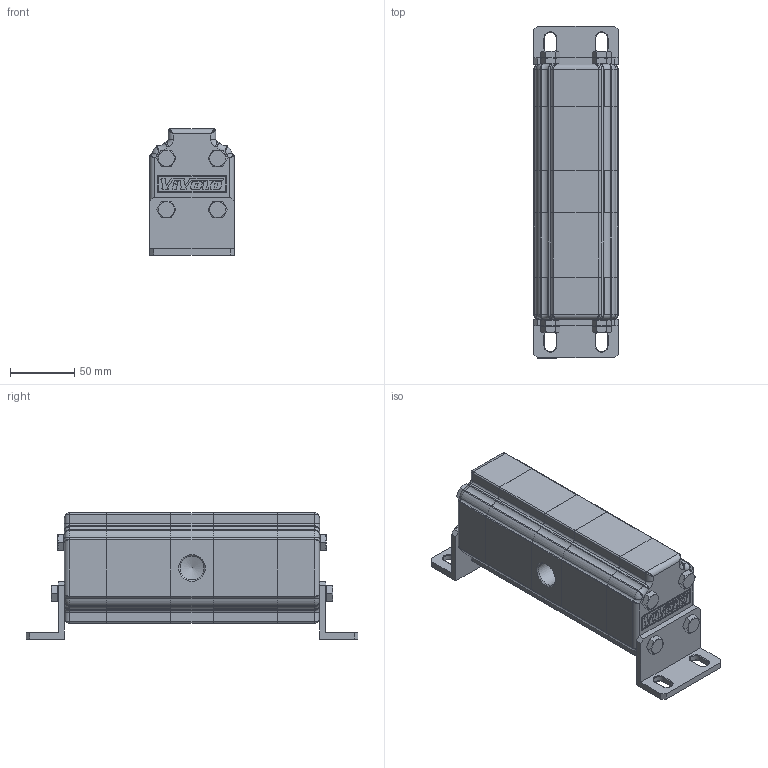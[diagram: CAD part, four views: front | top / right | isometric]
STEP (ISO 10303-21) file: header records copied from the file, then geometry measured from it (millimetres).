
FILE_DESCRIPTION(/* description */ ('Unknown'),/* implementation_level */ '2;1');
FILE_NAME(/* name */ '9RD0223',/* time_stamp */ '2020-04-14T13:03:21+02:00',/* author */ ('Unknown'),/* organization */ ('Unknown'),/* preprocessor_version */ 'ST-DEVELOPER v16.7',/* originating_system */ 'DEX',/* authorisation */ $);
FILE_SCHEMA (('AUTOMOTIVE_DESIGN {1 0 10303 214 3 1 1}'));
Length unit declared in the file: millimetre
Products named in the file (1): RV-1D
Bounding box: 66 x 259 x 98.5 mm (x, y, z)
Volume: 1003391.7 mm3; surface area: 84799.4 mm2
Topology: 1 solids, 1 shells, 726 faces, 1929 edges, 1213 vertices
Faces by surface type: plane 322, cylinder 278, bspline 64, torus 32, cone 30
Full cylindrical faces by diameter (mm): 12 x8, 14.95 x4, 18.631 x2
Entity records: 29165 total; most frequent: CARTESIAN_POINT 6274, DIRECTION 3746, ORIENTED_EDGE 3696, EDGE_CURVE 1848, AXIS2_PLACEMENT_3D 1331, VERTEX_POINT 1195, LINE 1084, VECTOR 1084
